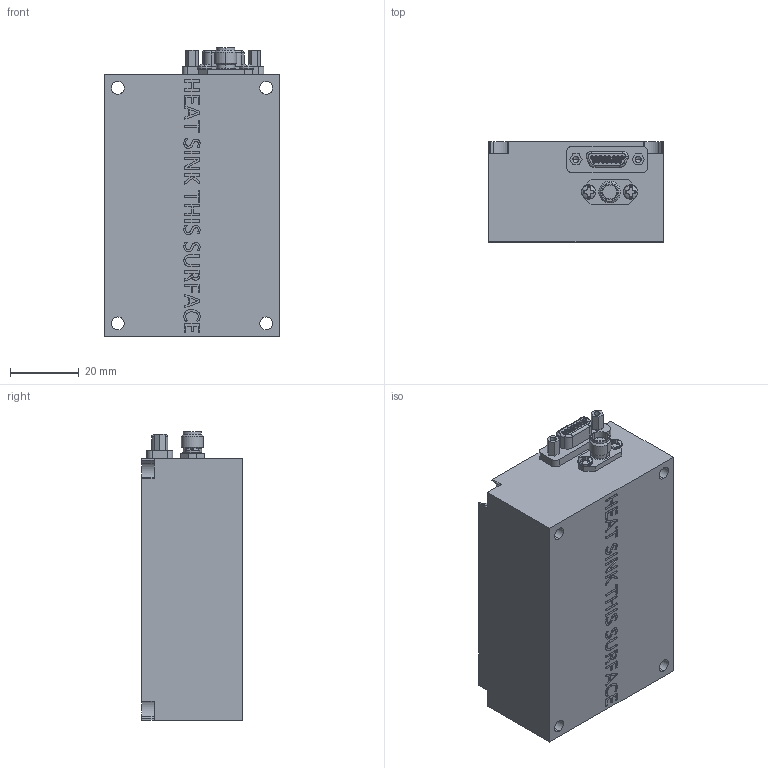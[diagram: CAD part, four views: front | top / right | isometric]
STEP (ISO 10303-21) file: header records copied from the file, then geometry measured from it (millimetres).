
FILE_DESCRIPTION (( 'STEP AP203' ), '1' );
FILE_NAME ('QS-TX-07BJXXX.STEP', '2025-02-18T15:38:35', ( '' ), ( '' ), 'SwSTEP 2.0', 'SolidWorks 2023', '' );
FILE_SCHEMA (( 'CONFIG_CONTROL_DESIGN' ));
Length unit declared in the file: inch
Products named in the file (1): QS-TX-07BJXXX
Bounding box: 50.8 x 29.23 x 84.14 mm (x, y, z)
Volume: 112383 mm3; surface area: 18344.6 mm2
Topology: 22 solids, 22 shells, 693 faces, 1722 edges, 1126 vertices
Faces by surface type: plane 291, bspline 192, cylinder 151, torus 29, cone 26, sphere 4
Entity records: 28870 total; most frequent: CARTESIAN_POINT 13234, ORIENTED_EDGE 3436, DIRECTION 2759, EDGE_CURVE 1718, VERTEX_POINT 1126, AXIS2_PLACEMENT_3D 923, VECTOR 913, LINE 913
